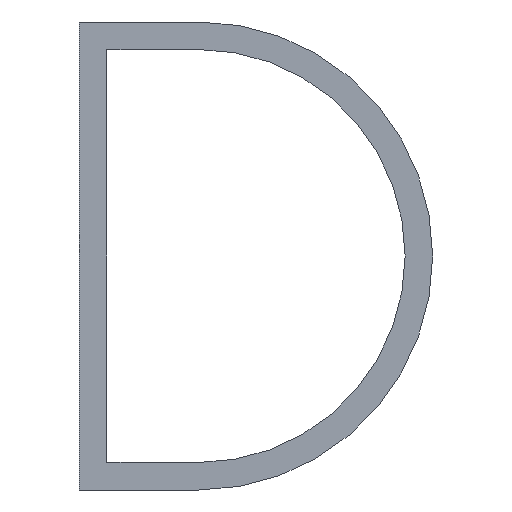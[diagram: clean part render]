
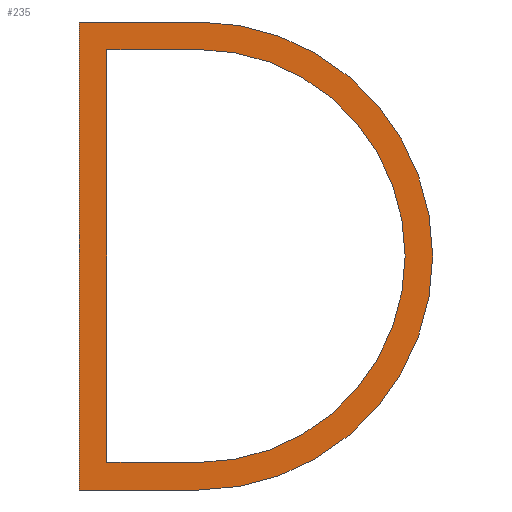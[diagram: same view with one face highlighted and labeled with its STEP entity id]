
A CAD part, left-side view. The second image highlights one B-rep face of the part: STEP entity #235.
In plain terms, the highlighted planar face has unit normal (-1, 0, 0).
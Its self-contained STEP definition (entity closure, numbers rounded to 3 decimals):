
#19=FACE_BOUND('',#56,.T.);
#27=PLANE('',#269);
#39=FACE_OUTER_BOUND('',#55,.T.);
#55=EDGE_LOOP('',(#205,#206,#207,#208));
#56=EDGE_LOOP('',(#209,#210,#211,#212));
#63=LINE('',#359,#85);
#66=LINE('',#365,#88);
#69=LINE('',#370,#91);
#73=LINE('',#383,#95);
#76=LINE('',#389,#98);
#79=LINE('',#394,#101);
#85=VECTOR('',#297,10.);
#88=VECTOR('',#302,10.);
#91=VECTOR('',#307,10.);
#95=VECTOR('',#319,10.);
#98=VECTOR('',#324,10.);
#101=VECTOR('',#329,10.);
#107=CIRCLE('',#258,51.);
#109=CIRCLE('',#264,45.);
#115=VERTEX_POINT('',#349);
#116=VERTEX_POINT('',#350);
#119=VERTEX_POINT('',#358);
#121=VERTEX_POINT('',#364);
#123=VERTEX_POINT('',#373);
#124=VERTEX_POINT('',#374);
#127=VERTEX_POINT('',#382);
#129=VERTEX_POINT('',#388);
#137=EDGE_CURVE('',#115,#116,#107,.T.);
#141=EDGE_CURVE('',#119,#115,#63,.T.);
#144=EDGE_CURVE('',#119,#121,#66,.T.);
#147=EDGE_CURVE('',#116,#121,#69,.T.);
#149=EDGE_CURVE('',#123,#124,#109,.T.);
#153=EDGE_CURVE('',#127,#123,#73,.T.);
#156=EDGE_CURVE('',#127,#129,#76,.T.);
#159=EDGE_CURVE('',#124,#129,#79,.T.);
#205=ORIENTED_EDGE('',*,*,#147,.F.);
#206=ORIENTED_EDGE('',*,*,#137,.F.);
#207=ORIENTED_EDGE('',*,*,#141,.F.);
#208=ORIENTED_EDGE('',*,*,#144,.T.);
#209=ORIENTED_EDGE('',*,*,#156,.F.);
#210=ORIENTED_EDGE('',*,*,#153,.T.);
#211=ORIENTED_EDGE('',*,*,#149,.T.);
#212=ORIENTED_EDGE('',*,*,#159,.T.);
#235=ADVANCED_FACE('',(#39,#19),#27,.F.);
#258=AXIS2_PLACEMENT_3D('',#351,#289,#290);
#264=AXIS2_PLACEMENT_3D('',#375,#311,#312);
#269=AXIS2_PLACEMENT_3D('',#396,#331,#332);
#289=DIRECTION('center_axis',(1.,0.,0.));
#290=DIRECTION('ref_axis',(0.,0.,1.));
#297=DIRECTION('',(0.,-1.,0.));
#302=DIRECTION('',(0.,0.,-1.));
#307=DIRECTION('',(0.,1.,0.));
#311=DIRECTION('center_axis',(1.,0.,0.));
#312=DIRECTION('ref_axis',(0.,0.,1.));
#319=DIRECTION('',(0.,-1.,0.));
#324=DIRECTION('',(0.,0.,-1.));
#329=DIRECTION('',(0.,1.,0.));
#331=DIRECTION('center_axis',(1.,0.,0.));
#332=DIRECTION('ref_axis',(0.,0.,-1.));
#349=CARTESIAN_POINT('',(0.,0.,51.));
#350=CARTESIAN_POINT('',(0.,0.,-51.));
#351=CARTESIAN_POINT('Origin',(0.,0.,0.));
#358=CARTESIAN_POINT('',(0.,26.,51.));
#359=CARTESIAN_POINT('',(0.,20.,51.));
#364=CARTESIAN_POINT('',(0.,26.,-51.));
#365=CARTESIAN_POINT('',(0.,26.,45.));
#370=CARTESIAN_POINT('',(0.,0.,-51.));
#373=CARTESIAN_POINT('',(0.,0.,45.));
#374=CARTESIAN_POINT('',(0.,0.,-45.));
#375=CARTESIAN_POINT('Origin',(0.,0.,0.));
#382=CARTESIAN_POINT('',(0.,20.,45.));
#383=CARTESIAN_POINT('',(0.,20.,45.));
#388=CARTESIAN_POINT('',(0.,20.,-45.));
#389=CARTESIAN_POINT('',(0.,20.,45.));
#394=CARTESIAN_POINT('',(0.,0.,-45.));
#396=CARTESIAN_POINT('Origin',(0.,-45.,0.));
